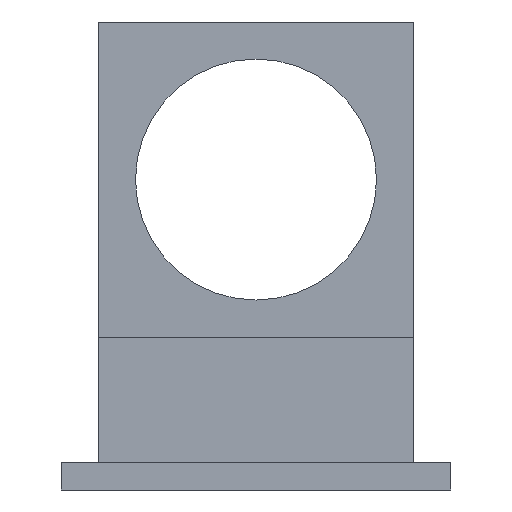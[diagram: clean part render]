
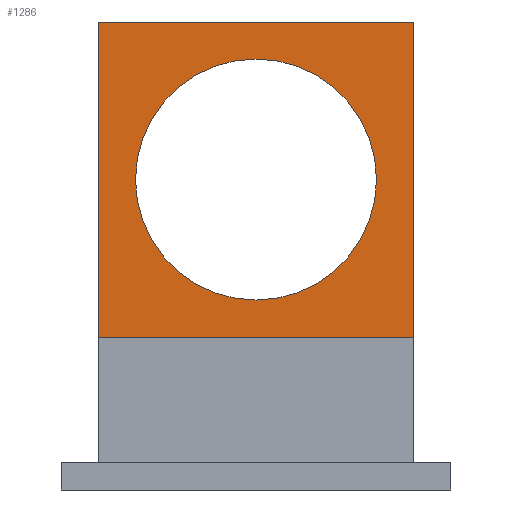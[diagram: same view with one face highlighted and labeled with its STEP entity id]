
A CAD part, left-side view. The second image highlights one B-rep face of the part: STEP entity #1286.
In plain terms, the highlighted planar face has unit normal (-1, 0, 0).
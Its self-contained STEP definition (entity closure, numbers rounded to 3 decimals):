
#529 = PLANE('',#530);
#530 = AXIS2_PLACEMENT_3D('',#531,#532,#533);
#531 = CARTESIAN_POINT('',(-2.3,-34.,6.));
#532 = DIRECTION('',(0.,1.,0.));
#533 = DIRECTION('',(0.,0.,1.));
#653 = PLANE('',#654);
#654 = AXIS2_PLACEMENT_3D('',#655,#656,#657);
#655 = CARTESIAN_POINT('',(-2.3,34.,6.));
#656 = DIRECTION('',(0.,1.,0.));
#657 = DIRECTION('',(0.,0.,1.));
#831 = PLANE('',#832);
#832 = AXIS2_PLACEMENT_3D('',#833,#834,#835);
#833 = CARTESIAN_POINT('',(-2.3,-34.,101.));
#834 = DIRECTION('',(0.,0.,1.));
#835 = DIRECTION('',(1.,0.,0.));
#1216 = CYLINDRICAL_SURFACE('',#1217,26.);
#1217 = AXIS2_PLACEMENT_3D('',#1218,#1219,#1220);
#1218 = CARTESIAN_POINT('',(-6.,0.,67.));
#1219 = DIRECTION('',(-1.,-0.,0.));
#1220 = DIRECTION('',(0.,0.,-1.));
#1231 = EDGE_CURVE('',#1232,#1232,#1234,.T.);
#1232 = VERTEX_POINT('',#1233);
#1233 = CARTESIAN_POINT('',(-4.3,0.,41.));
#1234 = SURFACE_CURVE('',#1235,(#1240,#1247),.PCURVE_S1.);
#1235 = CIRCLE('',#1236,26.);
#1236 = AXIS2_PLACEMENT_3D('',#1237,#1238,#1239);
#1237 = CARTESIAN_POINT('',(-4.3,0.,67.));
#1238 = DIRECTION('',(-1.,-0.,0.));
#1239 = DIRECTION('',(0.,0.,-1.));
#1240 = PCURVE('',#1216,#1241);
#1241 = DEFINITIONAL_REPRESENTATION('',(#1242),#1246);
#1242 = LINE('',#1243,#1244);
#1243 = CARTESIAN_POINT('',(-6.283,-1.7));
#1244 = VECTOR('',#1245,1.);
#1245 = DIRECTION('',(1.,-0.));
#1246 = ( GEOMETRIC_REPRESENTATION_CONTEXT(2) 
PARAMETRIC_REPRESENTATION_CONTEXT() REPRESENTATION_CONTEXT('2D SPACE',''
  ) );
#1247 = PCURVE('',#1248,#1253);
#1248 = PLANE('',#1249);
#1249 = AXIS2_PLACEMENT_3D('',#1250,#1251,#1252);
#1250 = CARTESIAN_POINT('',(-4.3,-34.,33.));
#1251 = DIRECTION('',(1.,0.,0.));
#1252 = DIRECTION('',(0.,0.,1.));
#1253 = DEFINITIONAL_REPRESENTATION('',(#1254),#1262);
#1254 = ( BOUNDED_CURVE() B_SPLINE_CURVE(2,(#1255,#1256,#1257,#1258,
#1259,#1260,#1261),.UNSPECIFIED.,.T.,.F.) B_SPLINE_CURVE_WITH_KNOTS((1,2
    ,2,2,2,1),(-2.094,0.,2.094,4.189,
6.283,8.378),.UNSPECIFIED.) CURVE() 
GEOMETRIC_REPRESENTATION_ITEM() RATIONAL_B_SPLINE_CURVE((1.,0.5,1.,0.5,
1.,0.5,1.)) REPRESENTATION_ITEM('') );
#1255 = CARTESIAN_POINT('',(8.,-34.));
#1256 = CARTESIAN_POINT('',(8.,11.033));
#1257 = CARTESIAN_POINT('',(47.,-11.483));
#1258 = CARTESIAN_POINT('',(86.,-34.));
#1259 = CARTESIAN_POINT('',(47.,-56.517));
#1260 = CARTESIAN_POINT('',(8.,-79.033));
#1261 = CARTESIAN_POINT('',(8.,-34.));
#1262 = ( GEOMETRIC_REPRESENTATION_CONTEXT(2) 
PARAMETRIC_REPRESENTATION_CONTEXT() REPRESENTATION_CONTEXT('2D SPACE',''
  ) );
#1286 = ADVANCED_FACE('',(#1287,#1386),#1248,.F.);
#1287 = FACE_BOUND('',#1288,.F.);
#1288 = EDGE_LOOP('',(#1289,#1314,#1342,#1365));
#1289 = ORIENTED_EDGE('',*,*,#1290,.F.);
#1290 = EDGE_CURVE('',#1291,#1293,#1295,.T.);
#1291 = VERTEX_POINT('',#1292);
#1292 = CARTESIAN_POINT('',(-4.3,-34.,33.));
#1293 = VERTEX_POINT('',#1294);
#1294 = CARTESIAN_POINT('',(-4.3,-34.,101.));
#1295 = SURFACE_CURVE('',#1296,(#1300,#1307),.PCURVE_S1.);
#1296 = LINE('',#1297,#1298);
#1297 = CARTESIAN_POINT('',(-4.3,-34.,33.));
#1298 = VECTOR('',#1299,1.);
#1299 = DIRECTION('',(0.,0.,1.));
#1300 = PCURVE('',#1248,#1301);
#1301 = DEFINITIONAL_REPRESENTATION('',(#1302),#1306);
#1302 = LINE('',#1303,#1304);
#1303 = CARTESIAN_POINT('',(0.,0.));
#1304 = VECTOR('',#1305,1.);
#1305 = DIRECTION('',(1.,0.));
#1306 = ( GEOMETRIC_REPRESENTATION_CONTEXT(2) 
PARAMETRIC_REPRESENTATION_CONTEXT() REPRESENTATION_CONTEXT('2D SPACE',''
  ) );
#1307 = PCURVE('',#529,#1308);
#1308 = DEFINITIONAL_REPRESENTATION('',(#1309),#1313);
#1309 = LINE('',#1310,#1311);
#1310 = CARTESIAN_POINT('',(27.,-2.));
#1311 = VECTOR('',#1312,1.);
#1312 = DIRECTION('',(1.,0.));
#1313 = ( GEOMETRIC_REPRESENTATION_CONTEXT(2) 
PARAMETRIC_REPRESENTATION_CONTEXT() REPRESENTATION_CONTEXT('2D SPACE',''
  ) );
#1314 = ORIENTED_EDGE('',*,*,#1315,.T.);
#1315 = EDGE_CURVE('',#1291,#1316,#1318,.T.);
#1316 = VERTEX_POINT('',#1317);
#1317 = CARTESIAN_POINT('',(-4.3,34.,33.));
#1318 = SURFACE_CURVE('',#1319,(#1323,#1330),.PCURVE_S1.);
#1319 = LINE('',#1320,#1321);
#1320 = CARTESIAN_POINT('',(-4.3,-34.,33.));
#1321 = VECTOR('',#1322,1.);
#1322 = DIRECTION('',(0.,1.,0.));
#1323 = PCURVE('',#1248,#1324);
#1324 = DEFINITIONAL_REPRESENTATION('',(#1325),#1329);
#1325 = LINE('',#1326,#1327);
#1326 = CARTESIAN_POINT('',(0.,0.));
#1327 = VECTOR('',#1328,1.);
#1328 = DIRECTION('',(0.,-1.));
#1329 = ( GEOMETRIC_REPRESENTATION_CONTEXT(2) 
PARAMETRIC_REPRESENTATION_CONTEXT() REPRESENTATION_CONTEXT('2D SPACE',''
  ) );
#1330 = PCURVE('',#1331,#1336);
#1331 = PLANE('',#1332);
#1332 = AXIS2_PLACEMENT_3D('',#1333,#1334,#1335);
#1333 = CARTESIAN_POINT('',(-4.3,-34.,33.));
#1334 = DIRECTION('',(0.,0.,1.));
#1335 = DIRECTION('',(1.,0.,0.));
#1336 = DEFINITIONAL_REPRESENTATION('',(#1337),#1341);
#1337 = LINE('',#1338,#1339);
#1338 = CARTESIAN_POINT('',(0.,0.));
#1339 = VECTOR('',#1340,1.);
#1340 = DIRECTION('',(0.,1.));
#1341 = ( GEOMETRIC_REPRESENTATION_CONTEXT(2) 
PARAMETRIC_REPRESENTATION_CONTEXT() REPRESENTATION_CONTEXT('2D SPACE',''
  ) );
#1342 = ORIENTED_EDGE('',*,*,#1343,.T.);
#1343 = EDGE_CURVE('',#1316,#1344,#1346,.T.);
#1344 = VERTEX_POINT('',#1345);
#1345 = CARTESIAN_POINT('',(-4.3,34.,101.));
#1346 = SURFACE_CURVE('',#1347,(#1351,#1358),.PCURVE_S1.);
#1347 = LINE('',#1348,#1349);
#1348 = CARTESIAN_POINT('',(-4.3,34.,33.));
#1349 = VECTOR('',#1350,1.);
#1350 = DIRECTION('',(0.,0.,1.));
#1351 = PCURVE('',#1248,#1352);
#1352 = DEFINITIONAL_REPRESENTATION('',(#1353),#1357);
#1353 = LINE('',#1354,#1355);
#1354 = CARTESIAN_POINT('',(0.,-68.));
#1355 = VECTOR('',#1356,1.);
#1356 = DIRECTION('',(1.,0.));
#1357 = ( GEOMETRIC_REPRESENTATION_CONTEXT(2) 
PARAMETRIC_REPRESENTATION_CONTEXT() REPRESENTATION_CONTEXT('2D SPACE',''
  ) );
#1358 = PCURVE('',#653,#1359);
#1359 = DEFINITIONAL_REPRESENTATION('',(#1360),#1364);
#1360 = LINE('',#1361,#1362);
#1361 = CARTESIAN_POINT('',(27.,-2.));
#1362 = VECTOR('',#1363,1.);
#1363 = DIRECTION('',(1.,0.));
#1364 = ( GEOMETRIC_REPRESENTATION_CONTEXT(2) 
PARAMETRIC_REPRESENTATION_CONTEXT() REPRESENTATION_CONTEXT('2D SPACE',''
  ) );
#1365 = ORIENTED_EDGE('',*,*,#1366,.F.);
#1366 = EDGE_CURVE('',#1293,#1344,#1367,.T.);
#1367 = SURFACE_CURVE('',#1368,(#1372,#1379),.PCURVE_S1.);
#1368 = LINE('',#1369,#1370);
#1369 = CARTESIAN_POINT('',(-4.3,-34.,101.));
#1370 = VECTOR('',#1371,1.);
#1371 = DIRECTION('',(0.,1.,0.));
#1372 = PCURVE('',#1248,#1373);
#1373 = DEFINITIONAL_REPRESENTATION('',(#1374),#1378);
#1374 = LINE('',#1375,#1376);
#1375 = CARTESIAN_POINT('',(68.,0.));
#1376 = VECTOR('',#1377,1.);
#1377 = DIRECTION('',(0.,-1.));
#1378 = ( GEOMETRIC_REPRESENTATION_CONTEXT(2) 
PARAMETRIC_REPRESENTATION_CONTEXT() REPRESENTATION_CONTEXT('2D SPACE',''
  ) );
#1379 = PCURVE('',#831,#1380);
#1380 = DEFINITIONAL_REPRESENTATION('',(#1381),#1385);
#1381 = LINE('',#1382,#1383);
#1382 = CARTESIAN_POINT('',(-2.,0.));
#1383 = VECTOR('',#1384,1.);
#1384 = DIRECTION('',(0.,1.));
#1385 = ( GEOMETRIC_REPRESENTATION_CONTEXT(2) 
PARAMETRIC_REPRESENTATION_CONTEXT() REPRESENTATION_CONTEXT('2D SPACE',''
  ) );
#1386 = FACE_BOUND('',#1387,.F.);
#1387 = EDGE_LOOP('',(#1388));
#1388 = ORIENTED_EDGE('',*,*,#1231,.T.);
